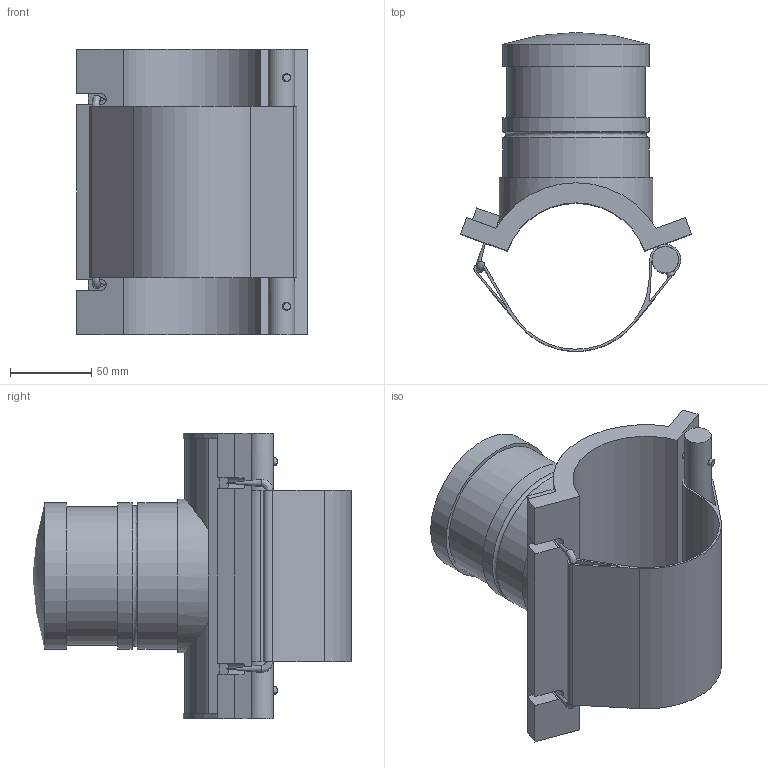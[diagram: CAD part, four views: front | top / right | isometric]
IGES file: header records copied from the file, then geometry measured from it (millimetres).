
Global section: file name: 496804090025.ipt; native system: Autodesk Inventor 2015; preprocessor: unknown; author: KIM; date: 20171106.094405; units: millimetre
Bounding box: 142 x 196.23 x 176 mm (x, y, z)
Volume: 1010992.5 mm3; surface area: 172739.3 mm2
Topology: 2 solids, 2 shells, 73 faces, 191 edges, 124 vertices
Faces by surface type: plane 43, cylinder 20, revolution 9, sphere 1
Full cylindrical faces by diameter (mm): 4.5 x6, 16.338 x1, 85.5 x1, 90 x3, 94.5 x1
